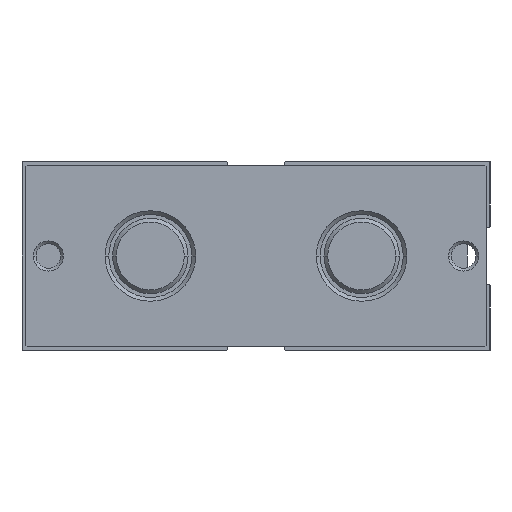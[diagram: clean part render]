
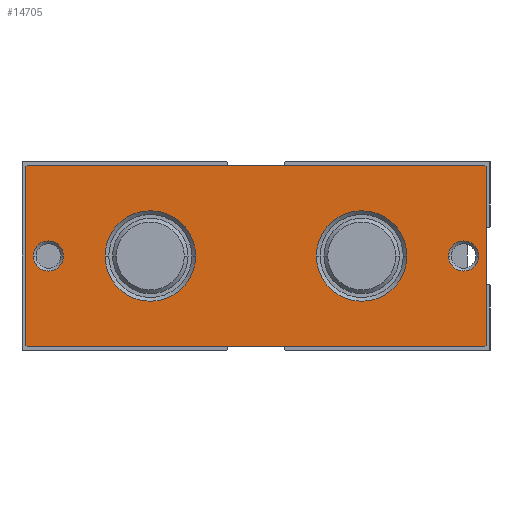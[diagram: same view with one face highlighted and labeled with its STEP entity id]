
A CAD part, left-side view. The second image highlights one B-rep face of the part: STEP entity #14705.
In plain terms, the highlighted planar face has unit normal (-1, 0, 0).
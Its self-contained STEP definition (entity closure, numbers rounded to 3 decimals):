
#93 = CARTESIAN_POINT ( 'NONE',  ( 0., 12., 8. ) ) ;
#242 = VERTEX_POINT ( 'NONE', #17437 ) ;
#383 = CIRCLE ( 'NONE', #1854, 2. ) ;
#500 = EDGE_CURVE ( 'NONE', #1551, #12611, #17675, .T. ) ;
#513 = LINE ( 'NONE', #22566, #2204 ) ;
#728 = CARTESIAN_POINT ( 'NONE',  ( 0., 12., -20. ) ) ;
#820 = CARTESIAN_POINT ( 'NONE',  ( 0., 12., -27.5 ) ) ;
#848 = VECTOR ( 'NONE', #20030, 1000. ) ;
#938 = DIRECTION ( 'NONE',  ( -1., 0., 0. ) ) ;
#1075 = ORIENTED_EDGE ( 'NONE', *, *, #12249, .F. ) ;
#1551 = VERTEX_POINT ( 'NONE', #12479 ) ;
#1626 = VECTOR ( 'NONE', #11615, 1000. ) ;
#1675 = AXIS2_PLACEMENT_3D ( 'NONE', #6547, #15200, #10246 ) ;
#1837 = VERTEX_POINT ( 'NONE', #10613 ) ;
#1854 = AXIS2_PLACEMENT_3D ( 'NONE', #2234, #9127, #17937 ) ;
#2084 = CARTESIAN_POINT ( 'NONE',  ( 0., 23.8, -30.5 ) ) ;
#2105 = DIRECTION ( 'NONE',  ( -1., 0., 0. ) ) ;
#2204 = VECTOR ( 'NONE', #3998, 1000. ) ;
#2234 = CARTESIAN_POINT ( 'NONE',  ( 0., 12., 27.5 ) ) ;
#2298 = ORIENTED_EDGE ( 'NONE', *, *, #18510, .F. ) ;
#2528 = AXIS2_PLACEMENT_3D ( 'NONE', #19419, #2105, #5288 ) ;
#2646 = DIRECTION ( 'NONE',  ( 0., 0., 1. ) ) ;
#2731 = DIRECTION ( 'NONE',  ( 0., -1., 0. ) ) ;
#3165 = VERTEX_POINT ( 'NONE', #14032 ) ;
#3539 = FACE_BOUND ( 'NONE', #20884, .T. ) ;
#3801 = DIRECTION ( 'NONE',  ( 0., 0.707, 0.707 ) ) ;
#3816 = FACE_OUTER_BOUND ( 'NONE', #22178, .T. ) ;
#3898 = ORIENTED_EDGE ( 'NONE', *, *, #11461, .F. ) ;
#3998 = DIRECTION ( 'NONE',  ( 0., -0.707, -0.707 ) ) ;
#4097 = LINE ( 'NONE', #9938, #11175 ) ;
#4105 = CARTESIAN_POINT ( 'NONE',  ( 0., 0., 30.3 ) ) ;
#4148 = CARTESIAN_POINT ( 'NONE',  ( 0., 23.8, -30.5 ) ) ;
#4233 = VERTEX_POINT ( 'NONE', #16590 ) ;
#4282 = CARTESIAN_POINT ( 'NONE',  ( 0., 12., 14. ) ) ;
#4473 = ORIENTED_EDGE ( 'NONE', *, *, #19007, .F. ) ;
#4539 = ORIENTED_EDGE ( 'NONE', *, *, #15776, .F. ) ;
#4687 = VERTEX_POINT ( 'NONE', #4148 ) ;
#4940 = CARTESIAN_POINT ( 'NONE',  ( 0., 0., -30.3 ) ) ;
#5056 = EDGE_CURVE ( 'NONE', #15145, #20573, #4097, .T. ) ;
#5269 = DIRECTION ( 'NONE',  ( 0., 0., -1. ) ) ;
#5288 = DIRECTION ( 'NONE',  ( 0., 0., 1. ) ) ;
#5945 = VERTEX_POINT ( 'NONE', #728 ) ;
#6189 = VERTEX_POINT ( 'NONE', #17096 ) ;
#6212 = VERTEX_POINT ( 'NONE', #22264 ) ;
#6547 = CARTESIAN_POINT ( 'NONE',  ( 0., 12., 14. ) ) ;
#6549 = EDGE_CURVE ( 'NONE', #20774, #15145, #14192, .T. ) ;
#6634 = DIRECTION ( 'NONE',  ( 0., 0., 1. ) ) ;
#6812 = CIRCLE ( 'NONE', #9036, 6. ) ;
#6872 = VERTEX_POINT ( 'NONE', #18956 ) ;
#7165 = LINE ( 'NONE', #9403, #20482 ) ;
#7508 = DIRECTION ( 'NONE',  ( 0., -0.707, 0.707 ) ) ;
#7657 = CARTESIAN_POINT ( 'NONE',  ( 0., 0.2, -30.5 ) ) ;
#7834 = CARTESIAN_POINT ( 'NONE',  ( 0., 0.2, -30.5 ) ) ;
#8856 = ORIENTED_EDGE ( 'NONE', *, *, #6549, .T. ) ;
#9019 = DIRECTION ( 'NONE',  ( -1., 0., 0. ) ) ;
#9036 = AXIS2_PLACEMENT_3D ( 'NONE', #4282, #20168, #18432 ) ;
#9053 = ORIENTED_EDGE ( 'NONE', *, *, #10114, .F. ) ;
#9127 = DIRECTION ( 'NONE',  ( -1., 0., 0. ) ) ;
#9363 = DIRECTION ( 'NONE',  ( -1., 0., 0. ) ) ;
#9403 = CARTESIAN_POINT ( 'NONE',  ( 0., 24., 30.3 ) ) ;
#9938 = CARTESIAN_POINT ( 'NONE',  ( 0., 0., 30.3 ) ) ;
#10087 = AXIS2_PLACEMENT_3D ( 'NONE', #15282, #22422, #6634 ) ;
#10114 = EDGE_CURVE ( 'NONE', #5945, #242, #15734, .T. ) ;
#10227 = CIRCLE ( 'NONE', #10700, 2. ) ;
#10246 = DIRECTION ( 'NONE',  ( 0., 0., 1. ) ) ;
#10613 = CARTESIAN_POINT ( 'NONE',  ( 0., 12., 20. ) ) ;
#10700 = AXIS2_PLACEMENT_3D ( 'NONE', #19733, #9019, #21163 ) ;
#10912 = VECTOR ( 'NONE', #2731, 1000. ) ;
#11175 = VECTOR ( 'NONE', #21936, 1000. ) ;
#11412 = CIRCLE ( 'NONE', #10087, 6. ) ;
#11461 = EDGE_CURVE ( 'NONE', #17666, #1837, #13778, .T. ) ;
#11615 = DIRECTION ( 'NONE',  ( 0., 0., -1. ) ) ;
#11668 = EDGE_CURVE ( 'NONE', #4233, #6212, #10227, .T. ) ;
#11784 = ORIENTED_EDGE ( 'NONE', *, *, #500, .T. ) ;
#12249 = EDGE_CURVE ( 'NONE', #6189, #12464, #383, .T. ) ;
#12464 = VERTEX_POINT ( 'NONE', #13597 ) ;
#12479 = CARTESIAN_POINT ( 'NONE',  ( 0., 24., 30.3 ) ) ;
#12534 = VECTOR ( 'NONE', #3801, 1000. ) ;
#12611 = VERTEX_POINT ( 'NONE', #19127 ) ;
#12782 = EDGE_CURVE ( 'NONE', #1551, #6872, #7165, .T. ) ;
#12807 = LINE ( 'NONE', #7657, #10912 ) ;
#12945 = CARTESIAN_POINT ( 'NONE',  ( 0., 12., -14. ) ) ;
#13105 = CARTESIAN_POINT ( 'NONE',  ( 0., 0., -30.3 ) ) ;
#13597 = CARTESIAN_POINT ( 'NONE',  ( 0., 12., 29.5 ) ) ;
#13776 = DIRECTION ( 'NONE',  ( 1., 0., 0. ) ) ;
#13778 = CIRCLE ( 'NONE', #1675, 6. ) ;
#13878 = VECTOR ( 'NONE', #15521, 1000. ) ;
#14032 = CARTESIAN_POINT ( 'NONE',  ( 0., 0.2, 30.5 ) ) ;
#14192 = LINE ( 'NONE', #13105, #848 ) ;
#14245 = EDGE_CURVE ( 'NONE', #4687, #20774, #12807, .T. ) ;
#14448 = EDGE_CURVE ( 'NONE', #1837, #17666, #6812, .T. ) ;
#14682 = EDGE_CURVE ( 'NONE', #3165, #6872, #18263, .T. ) ;
#14694 = LINE ( 'NONE', #2084, #12534 ) ;
#14705 = ADVANCED_FACE ( 'NONE', ( #3816, #21789, #3539, #15513, #17175 ), #15669, .F. ) ;
#14748 = DIRECTION ( 'NONE',  ( 0., 0., 1. ) ) ;
#15080 = EDGE_CURVE ( 'NONE', #242, #5945, #11412, .T. ) ;
#15099 = CARTESIAN_POINT ( 'NONE',  ( 0., 24., -30.3 ) ) ;
#15145 = VERTEX_POINT ( 'NONE', #4940 ) ;
#15200 = DIRECTION ( 'NONE',  ( -1., 0., 0. ) ) ;
#15282 = CARTESIAN_POINT ( 'NONE',  ( 0., 12., -14. ) ) ;
#15513 = FACE_BOUND ( 'NONE', #19862, .T. ) ;
#15521 = DIRECTION ( 'NONE',  ( 0., 1., 0. ) ) ;
#15593 = CARTESIAN_POINT ( 'NONE',  ( 0., 0., 0. ) ) ;
#15669 = PLANE ( 'NONE',  #20562 ) ;
#15734 = CIRCLE ( 'NONE', #17110, 6. ) ;
#15776 = EDGE_CURVE ( 'NONE', #12464, #6189, #21968, .T. ) ;
#16554 = ORIENTED_EDGE ( 'NONE', *, *, #11668, .F. ) ;
#16590 = CARTESIAN_POINT ( 'NONE',  ( 0., 12., -25.5 ) ) ;
#17096 = CARTESIAN_POINT ( 'NONE',  ( 0., 12., 25.5 ) ) ;
#17110 = AXIS2_PLACEMENT_3D ( 'NONE', #12945, #938, #2646 ) ;
#17175 = FACE_BOUND ( 'NONE', #18113, .T. ) ;
#17287 = EDGE_CURVE ( 'NONE', #6212, #4233, #17774, .T. ) ;
#17437 = CARTESIAN_POINT ( 'NONE',  ( 0., 12., -8. ) ) ;
#17666 = VERTEX_POINT ( 'NONE', #93 ) ;
#17675 = LINE ( 'NONE', #15099, #1626 ) ;
#17774 = CIRCLE ( 'NONE', #18423, 2. ) ;
#17937 = DIRECTION ( 'NONE',  ( 0., 0., 1. ) ) ;
#18113 = EDGE_LOOP ( 'NONE', ( #19536, #9053 ) ) ;
#18263 = LINE ( 'NONE', #20840, #13878 ) ;
#18297 = ORIENTED_EDGE ( 'NONE', *, *, #14448, .F. ) ;
#18423 = AXIS2_PLACEMENT_3D ( 'NONE', #820, #9363, #14748 ) ;
#18432 = DIRECTION ( 'NONE',  ( 0., 0., 1. ) ) ;
#18510 = EDGE_CURVE ( 'NONE', #4687, #12611, #14694, .T. ) ;
#18655 = ORIENTED_EDGE ( 'NONE', *, *, #12782, .F. ) ;
#18956 = CARTESIAN_POINT ( 'NONE',  ( 0., 23.8, 30.5 ) ) ;
#19007 = EDGE_CURVE ( 'NONE', #3165, #20573, #513, .T. ) ;
#19127 = CARTESIAN_POINT ( 'NONE',  ( 0., 24., -30.3 ) ) ;
#19240 = ORIENTED_EDGE ( 'NONE', *, *, #14245, .T. ) ;
#19409 = ORIENTED_EDGE ( 'NONE', *, *, #14682, .T. ) ;
#19419 = CARTESIAN_POINT ( 'NONE',  ( 0., 12., 27.5 ) ) ;
#19536 = ORIENTED_EDGE ( 'NONE', *, *, #15080, .F. ) ;
#19612 = ORIENTED_EDGE ( 'NONE', *, *, #5056, .T. ) ;
#19733 = CARTESIAN_POINT ( 'NONE',  ( 0., 12., -27.5 ) ) ;
#19862 = EDGE_LOOP ( 'NONE', ( #18297, #3898 ) ) ;
#20030 = DIRECTION ( 'NONE',  ( 0., -0.707, 0.707 ) ) ;
#20168 = DIRECTION ( 'NONE',  ( -1., 0., 0. ) ) ;
#20482 = VECTOR ( 'NONE', #7508, 1000. ) ;
#20562 = AXIS2_PLACEMENT_3D ( 'NONE', #15593, #13776, #5269 ) ;
#20573 = VERTEX_POINT ( 'NONE', #4105 ) ;
#20774 = VERTEX_POINT ( 'NONE', #7834 ) ;
#20840 = CARTESIAN_POINT ( 'NONE',  ( 0., 23.8, 30.5 ) ) ;
#20884 = EDGE_LOOP ( 'NONE', ( #16554, #21906 ) ) ;
#21163 = DIRECTION ( 'NONE',  ( 0., 0., 1. ) ) ;
#21789 = FACE_BOUND ( 'NONE', #22505, .T. ) ;
#21906 = ORIENTED_EDGE ( 'NONE', *, *, #17287, .F. ) ;
#21936 = DIRECTION ( 'NONE',  ( 0., 0., 1. ) ) ;
#21968 = CIRCLE ( 'NONE', #2528, 2. ) ;
#22178 = EDGE_LOOP ( 'NONE', ( #18655, #11784, #2298, #19240, #8856, #19612, #4473, #19409 ) ) ;
#22264 = CARTESIAN_POINT ( 'NONE',  ( 0., 12., -29.5 ) ) ;
#22422 = DIRECTION ( 'NONE',  ( -1., 0., 0. ) ) ;
#22505 = EDGE_LOOP ( 'NONE', ( #4539, #1075 ) ) ;
#22566 = CARTESIAN_POINT ( 'NONE',  ( 0., 0.2, 30.5 ) ) ;
